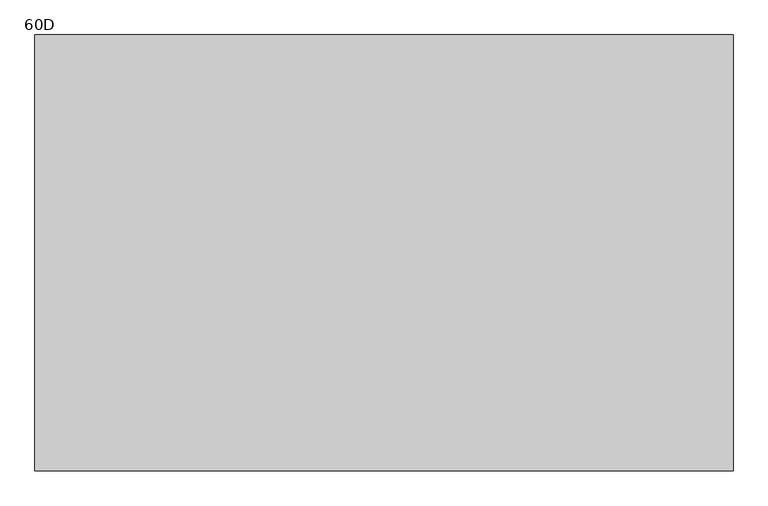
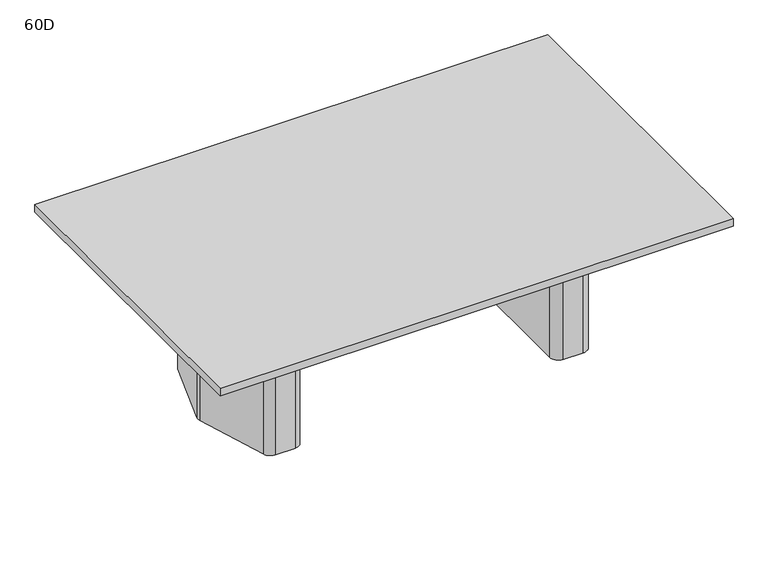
"""IFC4 building model written with IfcOpenShell, lengths in millimetres: furniture geometry, Coalesse_AM_Table_Conference_ETable2_Rectangular_96in_TwoBase : 60D."""

from ifc_helpers import new_model, si_unit, point, frame, frame_2d, origin, origin_with_axes, place, context, project, spatial, polyline, circle_curve, trimmed, segment, composite_curve, outline, extrude, source, transform, mapped, element, save


def furniture_60d_28f57a3e(model_context):
    return source(origin(), model_context, "Body", "SweptSolid", [
        extrude(outline(composite_curve([segment(polyline([(817.5625, 101.7236478), (817.5625, -97.2761514)]), True, "CONTINUOUS"), segment(trimmed(circle_curve(frame_2d((779.4625, -97.2761514)), 38.1), [point((817.5625, -97.2761514))], [point((815.7991129, -108.7330515))], False, "CARTESIAN"), True, "CONTINUOUS"), segment(polyline([(815.7991129, -108.7330515), (757.3745591, -294.0319001)]), True, "CONTINUOUS"), segment(trimmed(circle_curve(frame_2d((721.0379462, -282.575)), 38.1), [point((757.3745591, -294.0319001))], [point((721.0379462, -320.675))], False, "CARTESIAN"), True, "CONTINUOUS"), segment(polyline([(721.0379462, -320.675), (654.05, -320.675)]), True, "CONTINUOUS"), segment(trimmed(circle_curve(frame_2d((654.05, -282.575)), 38.1), [point((654.05, -320.675))], [point((615.95, -282.575))], False, "CARTESIAN"), True, "CONTINUOUS"), segment(polyline([(615.95, -282.575), (615.95, 282.575)]), True, "CONTINUOUS"), segment(trimmed(circle_curve(frame_2d((654.05, 282.575)), 38.1), [point((615.95, 282.575))], [point((654.05, 320.675))], False, "CARTESIAN"), True, "CONTINUOUS"), segment(polyline([(654.05, 320.675), (724.7873998, 320.675)]), True, "CONTINUOUS"), segment(trimmed(circle_curve(frame_2d((724.7873998, 282.575)), 38.1), [point((724.7873998, 320.675))], [point((761.2572049, 293.6005756))], False, "CARTESIAN"), True, "CONTINUOUS"), segment(polyline([(761.2572049, 293.6005756), (815.9323051, 112.7492234)]), True, "CONTINUOUS"), segment(trimmed(circle_curve(frame_2d((779.4625, 101.7236478)), 38.1), [point((815.9323051, 112.7492234))], [point((817.5625, 101.7236478))], False, "CARTESIAN"), True, "CONTINUOUS")], self_intersect=False)), origin_with_axes(), (0.0, 0.0, 1.0), 3.175),
        extrude(outline(composite_curve([segment(polyline([(638.175, 381.0), (726.3221663, 381.0)]), True, "CONTINUOUS"), segment(trimmed(circle_curve(frame_2d((726.3221663, 339.725)), 41.275), [point((726.3221663, 381.0))], [point((765.6868303, 352.1366418))], False, "CARTESIAN"), True, "CONTINUOUS"), segment(polyline([(765.6868303, 352.1366418), (872.8018053, 12.4116418)]), True, "CONTINUOUS"), segment(trimmed(circle_curve(frame_2d((833.4371413, 0.0)), 41.275), [point((872.8018053, 12.4116418))], [point((872.8018053, -12.4116418))], False, "CARTESIAN"), True, "CONTINUOUS"), segment(polyline([(872.8018053, -12.4116418), (765.6868303, -352.1366418)]), True, "CONTINUOUS"), segment(trimmed(circle_curve(frame_2d((726.3221663, -339.725)), 41.275), [point((765.6868303, -352.1366418))], [point((726.3221663, -381.0))], False, "CARTESIAN"), True, "CONTINUOUS"), segment(polyline([(726.3221663, -381.0), (631.825, -381.0)]), True, "CONTINUOUS"), segment(trimmed(circle_curve(frame_2d((631.825, -339.725)), 41.275), [point((631.825, -381.0))], [point((590.55, -339.725))], False, "CARTESIAN"), True, "CONTINUOUS"), segment(polyline([(590.55, -339.725), (590.55, 333.375)]), True, "CONTINUOUS"), segment(trimmed(circle_curve(frame_2d((638.175, 333.375)), 47.625), [point((590.55, 333.375))], [point((638.175, 381.0))], False, "CARTESIAN"), True, "CONTINUOUS")], self_intersect=False), holes=[composite_curve([segment(trimmed(circle_curve(frame_2d((654.05, -282.575)), 25.4), [point((628.65, -282.575))], [point((654.05, -307.975))], True, "CARTESIAN"), True, "CONTINUOUS"), segment(polyline([(654.05, -307.975), (721.0379462, -307.975)]), True, "CONTINUOUS"), segment(trimmed(circle_curve(frame_2d((721.0379462, -282.575)), 25.4), [point((721.0379462, -307.975))], [point((745.2623548, -290.2129334))], True, "CARTESIAN"), True, "CONTINUOUS"), segment(polyline([(745.2623548, -290.2129334), (803.6869086, -104.9140848)]), True, "CONTINUOUS"), segment(trimmed(circle_curve(frame_2d((779.4625, -97.2761514)), 25.4), [point((803.6869086, -104.9140848))], [point((804.8625, -97.2761514))], True, "CARTESIAN"), True, "CONTINUOUS"), segment(polyline([(804.8625, -97.2761514), (804.8625, 101.7236478)]), True, "CONTINUOUS"), segment(trimmed(circle_curve(frame_2d((779.4625, 101.7236478)), 25.4), [point((804.8625, 101.7236478))], [point((803.7757034, 109.0740316))], True, "CARTESIAN"), True, "CONTINUOUS"), segment(polyline([(803.7757034, 109.0740316), (749.1006032, 289.9253837)]), True, "CONTINUOUS"), segment(trimmed(circle_curve(frame_2d((724.7873998, 282.575)), 25.4), [point((749.1006032, 289.9253837))], [point((724.7873998, 307.975))], True, "CARTESIAN"), True, "CONTINUOUS"), segment(polyline([(724.7873998, 307.975), (654.05, 307.975)]), True, "CONTINUOUS"), segment(trimmed(circle_curve(frame_2d((654.05, 282.575)), 25.4), [point((654.05, 307.975))], [point((628.65, 282.575))], True, "CARTESIAN"), True, "CONTINUOUS"), segment(polyline([(628.65, 282.575), (628.65, -282.575)]), True, "CONTINUOUS")], self_intersect=False)]), frame((0.0, 0.0, 3.175), z_axis=(0.0, 0.0, 1.0), x_axis=(1.0, 0.0, 0.0)), (0.0, 0.0, 1.0), 695.325),
        extrude(outline(composite_curve([segment(trimmed(circle_curve(frame_2d((-790.575, 101.7236478)), 38.1), [point((-828.675, 101.7236478))], [point((-827.0448051, 112.7492234))], False, "CARTESIAN"), True, "CONTINUOUS"), segment(polyline([(-827.0448051, 112.7492234), (-772.3697049, 293.6005756)]), True, "CONTINUOUS"), segment(trimmed(circle_curve(frame_2d((-735.8998998, 282.575)), 38.1), [point((-772.3697049, 293.6005756))], [point((-735.8998998, 320.675))], False, "CARTESIAN"), True, "CONTINUOUS"), segment(polyline([(-735.8998998, 320.675), (-665.1625, 320.675)]), True, "CONTINUOUS"), segment(trimmed(circle_curve(frame_2d((-665.1625, 282.575)), 38.1), [point((-665.1625, 320.675))], [point((-627.0625, 282.575))], False, "CARTESIAN"), True, "CONTINUOUS"), segment(polyline([(-627.0625, 282.575), (-627.0625, -282.575)]), True, "CONTINUOUS"), segment(trimmed(circle_curve(frame_2d((-665.1625, -282.575)), 38.1), [point((-627.0625, -282.575))], [point((-665.1625, -320.675))], False, "CARTESIAN"), True, "CONTINUOUS"), segment(polyline([(-665.1625, -320.675), (-732.1504462, -320.675)]), True, "CONTINUOUS"), segment(trimmed(circle_curve(frame_2d((-732.1504462, -282.575)), 38.1), [point((-732.1504462, -320.675))], [point((-768.4870591, -294.0319001))], False, "CARTESIAN"), True, "CONTINUOUS"), segment(polyline([(-768.4870591, -294.0319001), (-826.9116129, -108.7330515)]), True, "CONTINUOUS"), segment(trimmed(circle_curve(frame_2d((-790.575, -97.2761514)), 38.1), [point((-826.9116129, -108.7330515))], [point((-828.675, -97.2761514))], False, "CARTESIAN"), True, "CONTINUOUS"), segment(polyline([(-828.675, -97.2761514), (-828.675, 101.7236478)]), True, "CONTINUOUS")], self_intersect=False)), origin_with_axes(), (0.0, 0.0, 1.0), 3.175),
        extrude(outline(composite_curve([segment(trimmed(circle_curve(frame_2d((-649.2875, 333.375)), 47.625), [point((-649.2875, 381.0))], [point((-601.6625, 333.375))], False, "CARTESIAN"), True, "CONTINUOUS"), segment(polyline([(-601.6625, 333.375), (-601.6625, -339.725)]), True, "CONTINUOUS"), segment(trimmed(circle_curve(frame_2d((-642.9375, -339.725)), 41.275), [point((-601.6625, -339.725))], [point((-642.9375, -381.0))], False, "CARTESIAN"), True, "CONTINUOUS"), segment(polyline([(-642.9375, -381.0), (-737.4346663, -381.0)]), True, "CONTINUOUS"), segment(trimmed(circle_curve(frame_2d((-737.4346663, -339.725)), 41.275), [point((-737.4346663, -381.0))], [point((-776.7993303, -352.1366418))], False, "CARTESIAN"), True, "CONTINUOUS"), segment(polyline([(-776.7993303, -352.1366418), (-883.9143053, -12.4116418)]), True, "CONTINUOUS"), segment(trimmed(circle_curve(frame_2d((-844.5496413, 0.0)), 41.275), [point((-883.9143053, -12.4116418))], [point((-883.9143053, 12.4116418))], False, "CARTESIAN"), True, "CONTINUOUS"), segment(polyline([(-883.9143053, 12.4116418), (-776.7993303, 352.1366418)]), True, "CONTINUOUS"), segment(trimmed(circle_curve(frame_2d((-737.4346663, 339.725)), 41.275), [point((-776.7993303, 352.1366418))], [point((-737.4346663, 381.0))], False, "CARTESIAN"), True, "CONTINUOUS"), segment(polyline([(-737.4346663, 381.0), (-649.2875, 381.0)]), True, "CONTINUOUS")], self_intersect=False), holes=[composite_curve([segment(polyline([(-639.7625, -282.575), (-639.7625, 282.575)]), True, "CONTINUOUS"), segment(trimmed(circle_curve(frame_2d((-665.1625, 282.575)), 25.4), [point((-639.7625, 282.575))], [point((-665.1625, 307.975))], True, "CARTESIAN"), True, "CONTINUOUS"), segment(polyline([(-665.1625, 307.975), (-735.8998998, 307.975)]), True, "CONTINUOUS"), segment(trimmed(circle_curve(frame_2d((-735.8998998, 282.575)), 25.4), [point((-735.8998998, 307.975))], [point((-760.2131032, 289.9253837))], True, "CARTESIAN"), True, "CONTINUOUS"), segment(polyline([(-760.2131032, 289.9253837), (-814.8882034, 109.0740316)]), True, "CONTINUOUS"), segment(trimmed(circle_curve(frame_2d((-790.575, 101.7236478)), 25.4), [point((-814.8882034, 109.0740316))], [point((-815.975, 101.7236478))], True, "CARTESIAN"), True, "CONTINUOUS"), segment(polyline([(-815.975, 101.7236478), (-815.975, -97.2761514)]), True, "CONTINUOUS"), segment(trimmed(circle_curve(frame_2d((-790.575, -97.2761514)), 25.4), [point((-815.975, -97.2761514))], [point((-814.7994086, -104.9140848))], True, "CARTESIAN"), True, "CONTINUOUS"), segment(polyline([(-814.7994086, -104.9140848), (-756.3748548, -290.2129334)]), True, "CONTINUOUS"), segment(trimmed(circle_curve(frame_2d((-732.1504462, -282.575)), 25.4), [point((-756.3748548, -290.2129334))], [point((-732.1504462, -307.975))], True, "CARTESIAN"), True, "CONTINUOUS"), segment(polyline([(-732.1504462, -307.975), (-665.1625, -307.975)]), True, "CONTINUOUS"), segment(trimmed(circle_curve(frame_2d((-665.1625, -282.575)), 25.4), [point((-665.1625, -307.975))], [point((-639.7625, -282.575))], True, "CARTESIAN"), True, "CONTINUOUS")], self_intersect=False)]), frame((0.0, 0.0, 3.175), z_axis=(0.0, 0.0, 1.0), x_axis=(1.0, 0.0, 0.0)), (0.0, 0.0, 1.0), 695.325),
        extrude(outline(polyline([(96.8375, 698.5), (103.1875, 698.5), (103.1875, 476.25), (-103.1875, 476.25), (-103.1875, 698.5), (-96.8375, 698.5), (-96.8375, 482.6), (96.8375, 482.6), (96.8375, 698.5)])), frame((-601.6625, 0.0, 0.0), z_axis=(1.0, 0.0, 0.0), x_axis=(0.0, 1.0, 0.0)), (0.0, 0.0, 1.0), 1192.2125),
        extrude(outline(polyline([(1219.2, 762.0), (1219.2, -762.0), (-1219.2, -762.0), (-1219.2, 762.0), (1219.2, 762.0)])), frame((0.0, 0.0, 698.5), z_axis=(0.0, 0.0, 1.0), x_axis=(1.0, 0.0, 0.0)), (0.0, 0.0, 1.0), 38.1),
    ])


if __name__ == "__main__":
    model = new_model("IFC4")
    model_context = context("Model", 3, world=origin())
    ifc_project = project(units=[si_unit("LENGTHUNIT", "METRE", prefix="MILLI")], contexts=[model_context])
    site = spatial("IfcSite", under=ifc_project)
    building = spatial("IfcBuilding", under=site)
    placement = place(None, origin())
    furniture_60d_shape = furniture_60d_28f57a3e(model_context)
    element("IfcFurniture", 1, ObjectType="Coalesse_AM_Table_Conference_ETable2_Rectangular_96in_TwoBase : 60D", at=placement, inside=building, context=model_context, shape_type="MappedRepresentation", body=[
        mapped(furniture_60d_shape, transform((0.0, 0.0, 0.0), x_axis=(1.0, 0.0, 0.0), y_axis=(0.0, 1.0, 0.0), z_axis=(0.0, 0.0, 1.0))),
    ])
    save(model, "model.ifc")
